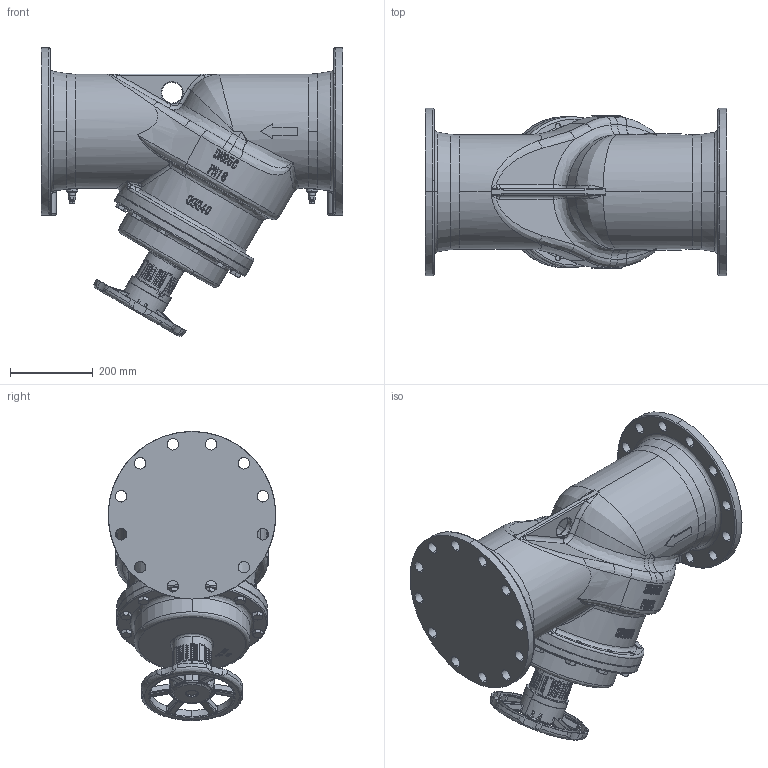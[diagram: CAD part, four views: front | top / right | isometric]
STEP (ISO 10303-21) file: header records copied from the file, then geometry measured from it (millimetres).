
FILE_DESCRIPTION (( 'STEP AP203' ), '1' );
FILE_NAME ('EKOFLUX.S025016P.1.STEP', '2022-06-20T14:35:45', ( '' ), ( '' ), 'SwSTEP 2.0', 'SolidWorks 2017', '' );
FILE_SCHEMA (( 'CONFIG_CONTROL_DESIGN' ));
Length unit declared in the file: millimetre
Products named in the file (1): EKOFLUX.S025016P.1
Bounding box: 730 x 405 x 698.75 mm (x, y, z)
Volume: 66138556.2 mm3; surface area: 1713627.7 mm2
Topology: 1 solids, 14 shells, 4213 faces, 10644 edges, 6659 vertices
Faces by surface type: bspline 1358, plane 1075, cylinder 914, cone 866
Entity records: 328643 total; most frequent: CARTESIAN_POINT 240924, ORIENTED_EDGE 21202, DIRECTION 12898, EDGE_CURVE 10601, VERTEX_POINT 6659, B_SPLINE_CURVE_WITH_KNOTS 4843, EDGE_LOOP 4550, AXIS2_PLACEMENT_3D 4368
